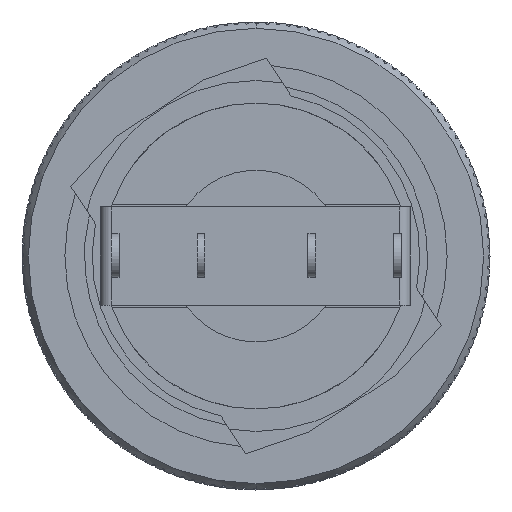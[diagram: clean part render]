
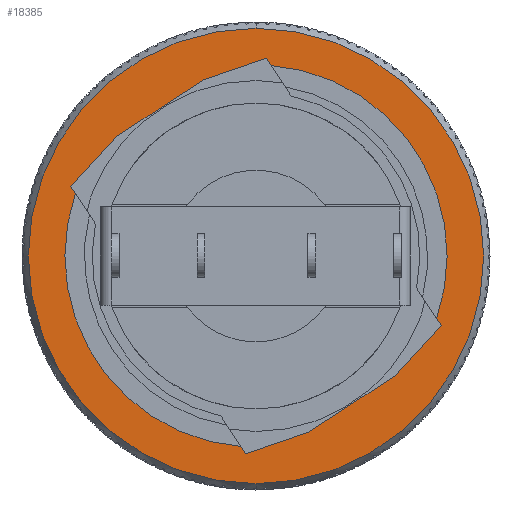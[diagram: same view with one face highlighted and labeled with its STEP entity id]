
A CAD part, front view. The second image highlights one B-rep face of the part: STEP entity #18385.
In plain terms, the highlighted planar face has unit normal (0, -1, 0).
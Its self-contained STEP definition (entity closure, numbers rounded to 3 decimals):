
#247 = CARTESIAN_POINT ( 'NONE',  ( 0., -9.5, 0. ) ) ;
#566 = DIRECTION ( 'NONE',  ( -0.837, 0., -0.547 ) ) ;
#810 = ORIENTED_EDGE ( 'NONE', *, *, #11497, .T. ) ;
#871 = EDGE_CURVE ( 'NONE', #20241, #7416, #11935, .T. ) ;
#1061 = ORIENTED_EDGE ( 'NONE', *, *, #15005, .T. ) ;
#1112 = EDGE_CURVE ( 'NONE', #11183, #3982, #17359, .T. ) ;
#1220 = EDGE_CURVE ( 'NONE', #3982, #11183, #18692, .T. ) ;
#1372 = CARTESIAN_POINT ( 'NONE',  ( 0., -9.5, 0. ) ) ;
#1430 = DIRECTION ( 'NONE',  ( 0., 0., 1. ) ) ;
#1503 = DIRECTION ( 'NONE',  ( 0., 1., 0. ) ) ;
#1920 = EDGE_CURVE ( 'NONE', #7416, #7678, #20739, .T. ) ;
#1957 = LINE ( 'NONE', #18377, #19203 ) ;
#2098 = DIRECTION ( 'NONE',  ( 0.677, 0., 0.736 ) ) ;
#2263 = EDGE_CURVE ( 'NONE', #2631, #17277, #6610, .T. ) ;
#2284 = ORIENTED_EDGE ( 'NONE', *, *, #18947, .T. ) ;
#2592 = DIRECTION ( 'NONE',  ( 0., 0., 1. ) ) ;
#2631 = VERTEX_POINT ( 'NONE', #9282 ) ;
#2714 = CARTESIAN_POINT ( 'NONE',  ( -6.279, -9.5, -4.102 ) ) ;
#2760 = DIRECTION ( 'NONE',  ( -0.547, 0., 0.837 ) ) ;
#3443 = CARTESIAN_POINT ( 'NONE',  ( -3.376, -9.5, 11.292 ) ) ;
#3630 = EDGE_CURVE ( 'NONE', #20089, #2631, #16204, .T. ) ;
#3702 = CARTESIAN_POINT ( 'NONE',  ( 6.279, -9.5, 4.102 ) ) ;
#3934 = DIRECTION ( 'NONE',  ( -0.547, 0., 0.837 ) ) ;
#3982 = VERTEX_POINT ( 'NONE', #8249 ) ;
#4370 = AXIS2_PLACEMENT_3D ( 'NONE', #1372, #1503, #1430 ) ;
#4773 = VECTOR ( 'NONE', #9163, 1000. ) ;
#4835 = EDGE_CURVE ( 'NONE', #16173, #5598, #5855, .T. ) ;
#5067 = AXIS2_PLACEMENT_3D ( 'NONE', #247, #16882, #19603 ) ;
#5232 = AXIS2_PLACEMENT_3D ( 'NONE', #14629, #15443, #2592 ) ;
#5317 = LINE ( 'NONE', #7474, #4773 ) ;
#5598 = VERTEX_POINT ( 'NONE', #3443 ) ;
#5611 = CARTESIAN_POINT ( 'NONE',  ( 0.673, -9.5, 12.683 ) ) ;
#5678 = CARTESIAN_POINT ( 'NONE',  ( 0.981, -9.5, 12.211 ) ) ;
#5855 = LINE ( 'NONE', #17300, #10284 ) ;
#5977 = FACE_BOUND ( 'NONE', #10071, .T. ) ;
#6289 = LINE ( 'NONE', #10212, #9688 ) ;
#6466 = LINE ( 'NONE', #12281, #20323 ) ;
#6610 = CIRCLE ( 'NONE', #5232, 12.25 ) ;
#6881 = LINE ( 'NONE', #13740, #11338 ) ;
#7416 = VERTEX_POINT ( 'NONE', #20059 ) ;
#7474 = CARTESIAN_POINT ( 'NONE',  ( 6.18, -9.5, -9.46 ) ) ;
#7556 = ORIENTED_EDGE ( 'NONE', *, *, #15134, .T. ) ;
#7678 = VERTEX_POINT ( 'NONE', #17228 ) ;
#7807 = VERTEX_POINT ( 'NONE', #12659 ) ;
#7954 = VECTOR ( 'NONE', #17395, 1000. ) ;
#8249 = CARTESIAN_POINT ( 'NONE',  ( 0., -9.5, 14.596 ) ) ;
#8407 = DIRECTION ( 'NONE',  ( 0.547, 0., -0.837 ) ) ;
#9163 = DIRECTION ( 'NONE',  ( -0.837, 0., -0.547 ) ) ;
#9282 = CARTESIAN_POINT ( 'NONE',  ( -0.981, -9.5, -12.211 ) ) ;
#9639 = ORIENTED_EDGE ( 'NONE', *, *, #1920, .T. ) ;
#9656 = ORIENTED_EDGE ( 'NONE', *, *, #3630, .T. ) ;
#9688 = VECTOR ( 'NONE', #20211, 1000. ) ;
#9896 = EDGE_LOOP ( 'NONE', ( #17120, #16021 ) ) ;
#10071 = EDGE_LOOP ( 'NONE', ( #7556, #17962, #9656, #15861, #2284, #1061, #17524, #12240, #810, #12733, #9639, #20767 ) ) ;
#10212 = CARTESIAN_POINT ( 'NONE',  ( -3.376, -9.5, 11.292 ) ) ;
#10284 = VECTOR ( 'NONE', #17462, 1000. ) ;
#10296 = VECTOR ( 'NONE', #21685, 1000. ) ;
#10604 = DIRECTION ( 'NONE',  ( 0., -1., 0. ) ) ;
#10756 = VECTOR ( 'NONE', #2760, 1000. ) ;
#10938 = FACE_OUTER_BOUND ( 'NONE', #9896, .T. ) ;
#11183 = VERTEX_POINT ( 'NONE', #19281 ) ;
#11218 = LINE ( 'NONE', #19658, #15077 ) ;
#11309 = CARTESIAN_POINT ( 'NONE',  ( 0., -9.5, 0. ) ) ;
#11338 = VECTOR ( 'NONE', #2098, 1000. ) ;
#11480 = EDGE_CURVE ( 'NONE', #7678, #12598, #14700, .T. ) ;
#11497 = EDGE_CURVE ( 'NONE', #18957, #20241, #1957, .T. ) ;
#11935 = CIRCLE ( 'NONE', #4370, 12.25 ) ;
#12094 = CARTESIAN_POINT ( 'NONE',  ( 3.376, -9.5, -11.292 ) ) ;
#12240 = ORIENTED_EDGE ( 'NONE', *, *, #17153, .T. ) ;
#12281 = CARTESIAN_POINT ( 'NONE',  ( -6.279, -9.5, -4.102 ) ) ;
#12598 = VERTEX_POINT ( 'NONE', #21424 ) ;
#12659 = CARTESIAN_POINT ( 'NONE',  ( -11.885, -9.5, 4.479 ) ) ;
#12733 = ORIENTED_EDGE ( 'NONE', *, *, #871, .T. ) ;
#13740 = CARTESIAN_POINT ( 'NONE',  ( -11.885, -9.5, 4.479 ) ) ;
#14613 = DIRECTION ( 'NONE',  ( 0., 0., 1. ) ) ;
#14629 = CARTESIAN_POINT ( 'NONE',  ( 0., -9.5, 0. ) ) ;
#14700 = LINE ( 'NONE', #18234, #10296 ) ;
#14994 = VERTEX_POINT ( 'NONE', #12094 ) ;
#15005 = EDGE_CURVE ( 'NONE', #7807, #16173, #6881, .T. ) ;
#15077 = VECTOR ( 'NONE', #21358, 1000. ) ;
#15134 = EDGE_CURVE ( 'NONE', #12598, #14994, #5317, .T. ) ;
#15443 = DIRECTION ( 'NONE',  ( 0., 1., 0. ) ) ;
#15492 = CARTESIAN_POINT ( 'NONE',  ( -11.576, -9.5, 4.006 ) ) ;
#15518 = CARTESIAN_POINT ( 'NONE',  ( 4.287, -9.5, 20.445 ) ) ;
#15861 = ORIENTED_EDGE ( 'NONE', *, *, #2263, .T. ) ;
#15952 = DIRECTION ( 'NONE',  ( 0., -1., 0. ) ) ;
#16021 = ORIENTED_EDGE ( 'NONE', *, *, #1112, .T. ) ;
#16173 = VERTEX_POINT ( 'NONE', #17539 ) ;
#16204 = LINE ( 'NONE', #2714, #10756 ) ;
#16882 = DIRECTION ( 'NONE',  ( 0., -1., 0. ) ) ;
#17120 = ORIENTED_EDGE ( 'NONE', *, *, #1220, .T. ) ;
#17153 = EDGE_CURVE ( 'NONE', #5598, #18957, #6289, .T. ) ;
#17228 = CARTESIAN_POINT ( 'NONE',  ( 11.885, -9.5, -4.479 ) ) ;
#17277 = VERTEX_POINT ( 'NONE', #15492 ) ;
#17300 = CARTESIAN_POINT ( 'NONE',  ( -6.18, -9.5, 9.46 ) ) ;
#17359 = CIRCLE ( 'NONE', #5067, 14.596 ) ;
#17395 = DIRECTION ( 'NONE',  ( 0.547, 0., -0.837 ) ) ;
#17462 = DIRECTION ( 'NONE',  ( 0.837, 0., 0.547 ) ) ;
#17524 = ORIENTED_EDGE ( 'NONE', *, *, #4835, .T. ) ;
#17539 = CARTESIAN_POINT ( 'NONE',  ( -8.985, -9.5, 7.628 ) ) ;
#17962 = ORIENTED_EDGE ( 'NONE', *, *, #18020, .T. ) ;
#18020 = EDGE_CURVE ( 'NONE', #14994, #20089, #11218, .T. ) ;
#18234 = CARTESIAN_POINT ( 'NONE',  ( 11.885, -9.5, -4.479 ) ) ;
#18377 = CARTESIAN_POINT ( 'NONE',  ( 6.279, -9.5, 4.102 ) ) ;
#18385 = ADVANCED_FACE ( 'NONE', ( #5977, #10938 ), #20609, .T. ) ;
#18512 = AXIS2_PLACEMENT_3D ( 'NONE', #11309, #15952, #14613 ) ;
#18692 = CIRCLE ( 'NONE', #18512, 14.596 ) ;
#18947 = EDGE_CURVE ( 'NONE', #17277, #7807, #6466, .T. ) ;
#18957 = VERTEX_POINT ( 'NONE', #5611 ) ;
#19013 = AXIS2_PLACEMENT_3D ( 'NONE', #15518, #10604, #566 ) ;
#19203 = VECTOR ( 'NONE', #8407, 1000. ) ;
#19281 = CARTESIAN_POINT ( 'NONE',  ( 0., -9.5, -14.596 ) ) ;
#19603 = DIRECTION ( 'NONE',  ( 0., 0., 1. ) ) ;
#19658 = CARTESIAN_POINT ( 'NONE',  ( 3.376, -9.5, -11.292 ) ) ;
#20059 = CARTESIAN_POINT ( 'NONE',  ( 11.576, -9.5, -4.006 ) ) ;
#20089 = VERTEX_POINT ( 'NONE', #20427 ) ;
#20211 = DIRECTION ( 'NONE',  ( 0.946, 0., 0.325 ) ) ;
#20241 = VERTEX_POINT ( 'NONE', #5678 ) ;
#20323 = VECTOR ( 'NONE', #3934, 1000. ) ;
#20427 = CARTESIAN_POINT ( 'NONE',  ( -0.673, -9.5, -12.683 ) ) ;
#20609 = PLANE ( 'NONE',  #19013 ) ;
#20739 = LINE ( 'NONE', #3702, #7954 ) ;
#20767 = ORIENTED_EDGE ( 'NONE', *, *, #11480, .T. ) ;
#21358 = DIRECTION ( 'NONE',  ( -0.946, 0., -0.325 ) ) ;
#21424 = CARTESIAN_POINT ( 'NONE',  ( 8.985, -9.5, -7.628 ) ) ;
#21685 = DIRECTION ( 'NONE',  ( -0.677, 0., -0.736 ) ) ;
